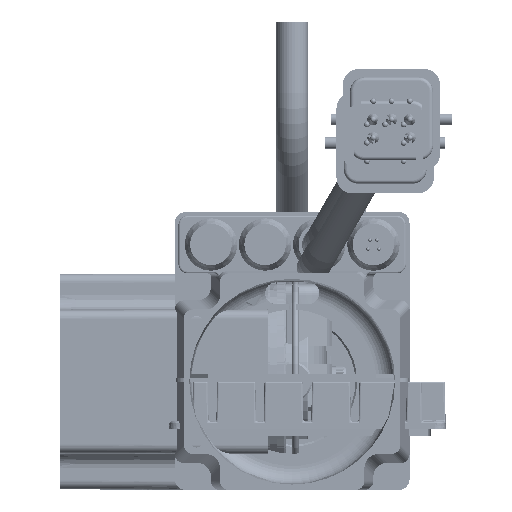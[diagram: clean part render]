
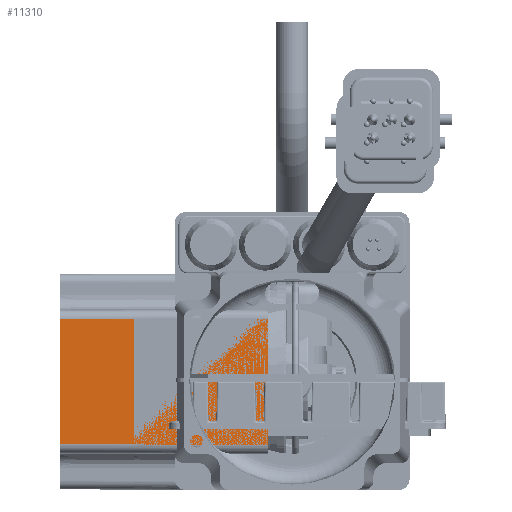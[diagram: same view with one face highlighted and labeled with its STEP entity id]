
A CAD part, front view. The second image highlights one B-rep face of the part: STEP entity #11310.
In plain terms, the highlighted planar face has unit normal (-0.003, -1, 0).
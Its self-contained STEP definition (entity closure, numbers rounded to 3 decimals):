
#11310 = ADVANCED_FACE( '', ( #24559 ), #24560, .T. );
#24559 = FACE_OUTER_BOUND( '', #49701, .T. );
#24560 = PLANE( '', #49702 );
#49701 = EDGE_LOOP( '', ( #78603, #78604, #78605, #78606 ) );
#49702 = AXIS2_PLACEMENT_3D( '', #78607, #78608, #78609 );
#78603 = ORIENTED_EDGE( '', *, *, #91845, .T. );
#78604 = ORIENTED_EDGE( '', *, *, #94517, .T. );
#78605 = ORIENTED_EDGE( '', *, *, #98395, .T. );
#78606 = ORIENTED_EDGE( '', *, *, #94031, .T. );
#78607 = CARTESIAN_POINT( '', ( -6., -30., 0. ) );
#78608 = DIRECTION( '', ( -0.003, -1., 0. ) );
#78609 = DIRECTION( '', ( 1., -0.003, 0. ) );
#91845 = EDGE_CURVE( '', #104106, #104104, #104107, .T. );
#94031 = EDGE_CURVE( '', #107642, #104106, #107643, .T. );
#94517 = EDGE_CURVE( '', #104104, #108372, #108374, .T. );
#98395 = EDGE_CURVE( '', #108372, #107642, #113489, .T. );
#104104 = VERTEX_POINT( '', #128967 );
#104106 = VERTEX_POINT( '', #128969 );
#104107 = LINE( '', #128970, #128971 );
#107642 = VERTEX_POINT( '', #136388 );
#107643 = LINE( '', #136389, #136390 );
#108372 = VERTEX_POINT( '', #137793 );
#108374 = LINE( '', #137795, #137796 );
#113489 = LINE( '', #149166, #149167 );
#128967 = CARTESIAN_POINT( '', ( -6.75, -29.998, -17.498 ) );
#128969 = CARTESIAN_POINT( '', ( -64.25, -29.831, -17.331 ) );
#128970 = CARTESIAN_POINT( '', ( -5.993, -30., -17.5 ) );
#128971 = VECTOR( '', #156801, 1000. );
#136388 = CARTESIAN_POINT( '', ( -64.25, -29.831, 17.331 ) );
#136389 = CARTESIAN_POINT( '', ( -64.25, -29.831, 0. ) );
#136390 = VECTOR( '', #160069, 1000. );
#137793 = CARTESIAN_POINT( '', ( -6.75, -29.998, 17.498 ) );
#137795 = CARTESIAN_POINT( '', ( -6.75, -29.998, 0. ) );
#137796 = VECTOR( '', #160799, 1000. );
#149166 = CARTESIAN_POINT( '', ( -89.993, -29.756, 17.256 ) );
#149167 = VECTOR( '', #165690, 1000. );
#156801 = DIRECTION( '', ( 1., -0.003, -0.003 ) );
#160069 = DIRECTION( '', ( 0., 0., -1. ) );
#160799 = DIRECTION( '', ( 0., 0., 1. ) );
#165690 = DIRECTION( '', ( -1., 0.003, -0.003 ) );
